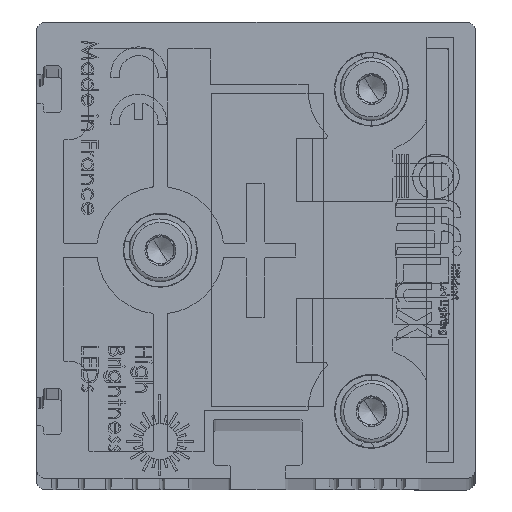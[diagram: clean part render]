
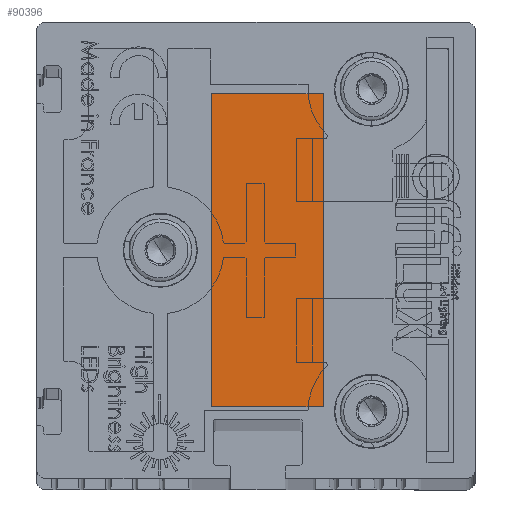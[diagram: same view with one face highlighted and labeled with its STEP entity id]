
A CAD part, top view. The second image highlights one B-rep face of the part: STEP entity #90396.
In plain terms, the highlighted planar face has unit normal (0, 0, 1) as drawn and (0, -1, 0) by its records, which use the part's own axes.
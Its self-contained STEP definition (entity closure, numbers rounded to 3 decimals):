
#5337 = VECTOR ( 'NONE', #66706, 1000. ) ;
#5703 = DIRECTION ( 'NONE',  ( 0., -1., 0. ) ) ;
#8228 = CARTESIAN_POINT ( 'NONE',  ( 8., 0.1, -19.5 ) ) ;
#11281 = VERTEX_POINT ( 'NONE', #33327 ) ;
#16982 = FACE_OUTER_BOUND ( 'NONE', #60681, .T. ) ;
#17473 = VERTEX_POINT ( 'NONE', #8228 ) ;
#30534 = VECTOR ( 'NONE', #97344, 1000. ) ;
#32780 = EDGE_CURVE ( 'NONE', #17473, #11281, #61080, .T. ) ;
#33327 = CARTESIAN_POINT ( 'NONE',  ( 8., 0.1, -32. ) ) ;
#35739 = CARTESIAN_POINT ( 'NONE',  ( 43., 0.1, -19.5 ) ) ;
#35989 = ORIENTED_EDGE ( 'NONE', *, *, #105399, .T. ) ;
#37088 = CARTESIAN_POINT ( 'NONE',  ( 8., 0.1, -32. ) ) ;
#46475 = CARTESIAN_POINT ( 'NONE',  ( 43., 0.1, -32. ) ) ;
#47864 = CARTESIAN_POINT ( 'NONE',  ( 43., 0.1, -32. ) ) ;
#49420 = ORIENTED_EDGE ( 'NONE', *, *, #32780, .T. ) ;
#51594 = VERTEX_POINT ( 'NONE', #84727 ) ;
#55985 = AXIS2_PLACEMENT_3D ( 'NONE', #35739, #5703, #97281 ) ;
#58431 = VERTEX_POINT ( 'NONE', #47864 ) ;
#60681 = EDGE_LOOP ( 'NONE', ( #90364, #35989, #49420, #118005 ) ) ;
#61080 = LINE ( 'NONE', #37088, #30534 ) ;
#66706 = DIRECTION ( 'NONE',  ( -1., 0., 0. ) ) ;
#78780 = VECTOR ( 'NONE', #89268, 1000. ) ;
#79715 = VECTOR ( 'NONE', #107630, 1000. ) ;
#84727 = CARTESIAN_POINT ( 'NONE',  ( 43., 0.1, -19.5 ) ) ;
#87427 = PLANE ( 'NONE',  #55985 ) ;
#87557 = CARTESIAN_POINT ( 'NONE',  ( 43., 0.1, -32. ) ) ;
#88448 = LINE ( 'NONE', #87557, #78780 ) ;
#89268 = DIRECTION ( 'NONE',  ( 0., 0., 1. ) ) ;
#90364 = ORIENTED_EDGE ( 'NONE', *, *, #108261, .T. ) ;
#90396 = ADVANCED_FACE ( 'NONE', ( #16982 ), #87427, .T. ) ;
#97281 = DIRECTION ( 'NONE',  ( 0., 0., -1. ) ) ;
#97344 = DIRECTION ( 'NONE',  ( 0., 0., -1. ) ) ;
#103234 = LINE ( 'NONE', #126009, #5337 ) ;
#105399 = EDGE_CURVE ( 'NONE', #51594, #17473, #103234, .T. ) ;
#105547 = LINE ( 'NONE', #46475, #79715 ) ;
#107630 = DIRECTION ( 'NONE',  ( 1., 0., 0. ) ) ;
#108261 = EDGE_CURVE ( 'NONE', #58431, #51594, #88448, .T. ) ;
#118005 = ORIENTED_EDGE ( 'NONE', *, *, #118668, .T. ) ;
#118668 = EDGE_CURVE ( 'NONE', #11281, #58431, #105547, .T. ) ;
#126009 = CARTESIAN_POINT ( 'NONE',  ( 43., 0.1, -19.5 ) ) ;
